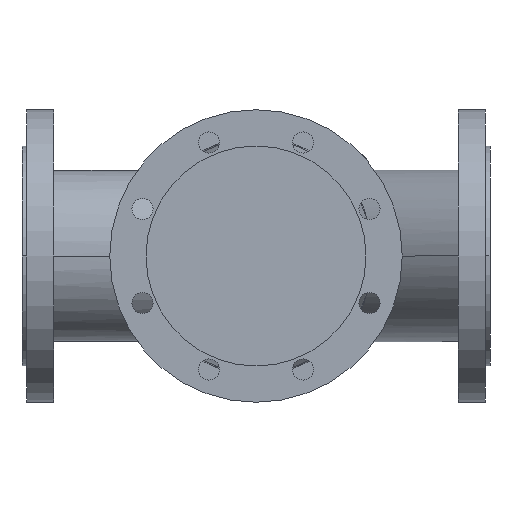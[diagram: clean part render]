
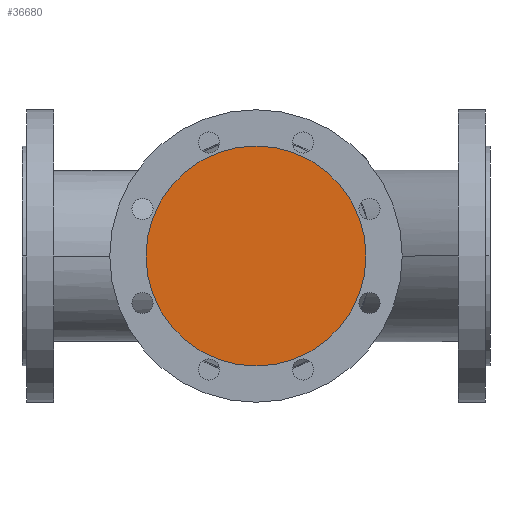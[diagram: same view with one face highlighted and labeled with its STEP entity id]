
A CAD part, front view. The second image highlights one B-rep face of the part: STEP entity #36680.
In plain terms, the highlighted planar face has unit normal (0, -1, 0).
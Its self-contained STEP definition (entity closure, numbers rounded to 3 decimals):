
#6220=CARTESIAN_POINT('',(106.,-200.,0.));
#6230=VERTEX_POINT('',#6220);
#6390=CARTESIAN_POINT('',(294.,-200.,0.));
#6400=VERTEX_POINT('',#6390);
#6430=CARTESIAN_POINT('',(200.,-200.,0.));
#6440=DIRECTION('',(0.,1.,0.));
#6450=DIRECTION('',(1.,0.,0.));
#6460=AXIS2_PLACEMENT_3D('',#6430,#6440,#6450);
#6470=CIRCLE('',#6460,94.);
#6480=EDGE_CURVE('',#6230,#6400,#6470,.T.);
#36580=CARTESIAN_POINT('',(247.,-200.,0.));
#36590=DIRECTION('',(0.,-1.,0.));
#36600=DIRECTION('',(-1.,0.,0.));
#36610=AXIS2_PLACEMENT_3D('',#36580,#36590,#36600);
#36620=PLANE('',#36610);
#36630=EDGE_CURVE('',#6400,#6230,#6470,.T.);
#36640=ORIENTED_EDGE('',*,*,#36630,.F.);
#36650=ORIENTED_EDGE('',*,*,#6480,.F.);
#36660=EDGE_LOOP('',(#36650,#36640));
#36670=FACE_OUTER_BOUND('',#36660,.T.);
#36680=ADVANCED_FACE('',(#36670),#36620,.T.);
